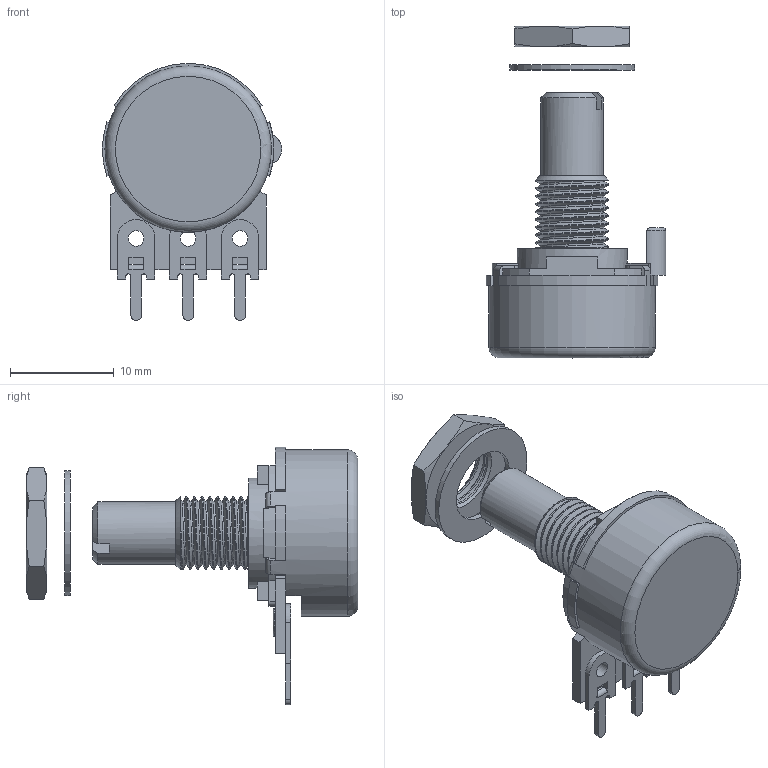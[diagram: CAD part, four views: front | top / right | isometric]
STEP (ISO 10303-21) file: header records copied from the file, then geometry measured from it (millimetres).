
FILE_DESCRIPTION(/* description */ ('Unknown'),/* implementation_level */ '2;1');
FILE_NAME(/* name */ 'RK163111-S15-41-B103',/* time_stamp */ '2025-05-22T15:25:59+02:00',/* author */ ('Unknown'),/* organization */ ('Unknown'),/* preprocessor_version */ 'ST-DEVELOPER v19.4',/* originating_system */ 'Solid Edge',/* authorisation */ 'Unknown');
FILE_SCHEMA (('AUTOMOTIVE_DESIGN {1 0 10303 214 3 1 1}'));
Length unit declared in the file: millimetre
Products named in the file (1): RK163111-S15-41-B103
Bounding box: 17.24 x 31.91 x 24.75 mm (x, y, z)
Volume: 2629 mm3; surface area: 2099.6 mm2
Topology: 3 solids, 3 shells, 260 faces, 707 edges, 455 vertices
Faces by surface type: plane 163, cylinder 67, cone 17, torus 9, bspline 4
Full cylindrical faces by diameter (mm): 1.5 x3, 2.75 x3, 6 x1, 6.29 x2, 7 x9, 7.2 x1, 10.6 x1, 12 x1, 16 x1
Entity records: 12236 total; most frequent: CARTESIAN_POINT 4498, ORIENTED_EDGE 1290, DIRECTION 1268, EDGE_CURVE 645, AXIS2_PLACEMENT_3D 427, VERTEX_POINT 424, LINE 414, VECTOR 414
